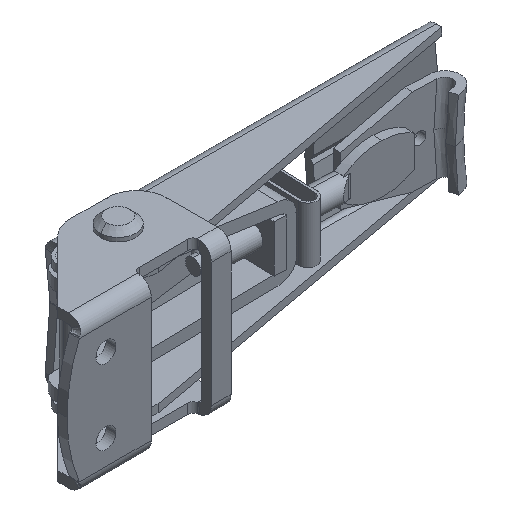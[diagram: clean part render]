
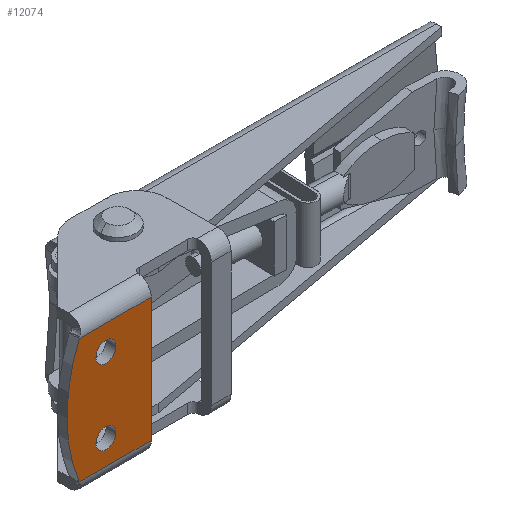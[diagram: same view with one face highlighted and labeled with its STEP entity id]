
A CAD part, isometric view. The second image highlights one B-rep face of the part: STEP entity #12074.
In plain terms, the highlighted planar face has unit normal (0, -1, 0).
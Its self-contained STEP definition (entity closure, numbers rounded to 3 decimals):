
#1479 = CARTESIAN_POINT ( 'NONE',  ( -34.35, 0., -9.5 ) ) ;
#1764 = DIRECTION ( 'NONE',  ( -1., 0., 0. ) ) ;
#1765 = DIRECTION ( 'NONE',  ( 0., 1., 0. ) ) ;
#1766 = CARTESIAN_POINT ( 'NONE',  ( -31.8, 0., 9.5 ) ) ;
#1767 = AXIS2_PLACEMENT_3D ( 'NONE', #1766, #1765, #1764 ) ;
#1768 = CIRCLE ( 'NONE', #1767, 2.55 ) ;
#1793 = CARTESIAN_POINT ( 'NONE',  ( -34.35, 0., 9.5 ) ) ;
#1798 = CARTESIAN_POINT ( 'NONE',  ( -29.25, 0., 9.5 ) ) ;
#1838 = DIRECTION ( 'NONE',  ( 1., 0., 0. ) ) ;
#1839 = DIRECTION ( 'NONE',  ( 0., 1., 0. ) ) ;
#1840 = CARTESIAN_POINT ( 'NONE',  ( -31.8, 0., -9.5 ) ) ;
#1841 = AXIS2_PLACEMENT_3D ( 'NONE', #1840, #1839, #1838 ) ;
#1842 = CIRCLE ( 'NONE', #1841, 2.55 ) ;
#1880 = CARTESIAN_POINT ( 'NONE',  ( -29.25, 0., -9.5 ) ) ;
#1885 = CARTESIAN_POINT ( 'NONE',  ( -38.585, 0., 15.775 ) ) ;
#1886 = DIRECTION ( 'NONE',  ( -1., 0., 0. ) ) ;
#1887 = DIRECTION ( 'NONE',  ( 0., -1., 0. ) ) ;
#1888 = AXIS2_PLACEMENT_3D ( 'NONE', #1895, #1887, #1886 ) ;
#1889 = CIRCLE ( 'NONE', #1888, 41.5 ) ;
#1895 = CARTESIAN_POINT ( 'NONE',  ( -0.2, 0., 0. ) ) ;
#1921 = CARTESIAN_POINT ( 'NONE',  ( -41.7, 0., 0. ) ) ;
#6169 = CARTESIAN_POINT ( 'NONE',  ( -38.585, 0., -15.775 ) ) ;
#6244 = CARTESIAN_POINT ( 'NONE',  ( -20.3, 0., -18.909 ) ) ;
#6245 = LINE ( 'NONE', #6244, #6298 ) ;
#6290 = CARTESIAN_POINT ( 'NONE',  ( -20.3, 0., -15.775 ) ) ;
#6291 = CARTESIAN_POINT ( 'NONE',  ( -20.3, 0., 15.775 ) ) ;
#6297 = DIRECTION ( 'NONE',  ( 0., 0., 1. ) ) ;
#6298 = VECTOR ( 'NONE', #6297, 1000. ) ;
#6348 = DIRECTION ( 'NONE',  ( -1., 0., 0. ) ) ;
#6349 = DIRECTION ( 'NONE',  ( 0., -1., 0. ) ) ;
#6350 = AXIS2_PLACEMENT_3D ( 'NONE', #6360, #6349, #6348 ) ;
#6359 = CIRCLE ( 'NONE', #6350, 41.5 ) ;
#6360 = CARTESIAN_POINT ( 'NONE',  ( -0.2, 0., 0. ) ) ;
#6537 = DIRECTION ( 'NONE',  ( 1., 0., 0. ) ) ;
#6538 = DIRECTION ( 'NONE',  ( 0., 1., 0. ) ) ;
#6539 = CARTESIAN_POINT ( 'NONE',  ( -31.8, 0., -9.5 ) ) ;
#6540 = AXIS2_PLACEMENT_3D ( 'NONE', #6539, #6538, #6537 ) ;
#6541 = CIRCLE ( 'NONE', #6540, 2.55 ) ;
#6649 = DIRECTION ( 'NONE',  ( -1., 0., 0. ) ) ;
#6650 = DIRECTION ( 'NONE',  ( 0., 1., 0. ) ) ;
#6651 = CARTESIAN_POINT ( 'NONE',  ( -31.8, 0., 9.5 ) ) ;
#6652 = AXIS2_PLACEMENT_3D ( 'NONE', #6651, #6650, #6649 ) ;
#6653 = CIRCLE ( 'NONE', #6652, 2.55 ) ;
#6655 = DIRECTION ( 'NONE',  ( 1., 0., 0. ) ) ;
#6656 = VECTOR ( 'NONE', #6655, 1000. ) ;
#6657 = CARTESIAN_POINT ( 'NONE',  ( -41.7, 0., -15.775 ) ) ;
#6658 = LINE ( 'NONE', #6657, #6656 ) ;
#6862 = DIRECTION ( 'NONE',  ( 1., 0., 0. ) ) ;
#6863 = DIRECTION ( 'NONE',  ( 0., 1., 0. ) ) ;
#6864 = CARTESIAN_POINT ( 'NONE',  ( -41.7, 0., 19.275 ) ) ;
#6865 = AXIS2_PLACEMENT_3D ( 'NONE', #6864, #6863, #6862 ) ;
#6866 = PLANE ( 'NONE',  #6865 ) ;
#6867 = FACE_OUTER_BOUND ( 'NONE', #11977, .T. ) ;
#6868 = FACE_BOUND ( 'NONE', #12096, .T. ) ;
#6869 = FACE_BOUND ( 'NONE', #12092, .T. ) ;
#6895 = DIRECTION ( 'NONE',  ( 1., 0., 0. ) ) ;
#6896 = VECTOR ( 'NONE', #6895, 1000. ) ;
#6897 = CARTESIAN_POINT ( 'NONE',  ( -41.7, 0., 15.775 ) ) ;
#6902 = LINE ( 'NONE', #6897, #6896 ) ;
#7820 = VERTEX_POINT ( 'NONE', #1479 ) ;
#7980 = EDGE_CURVE ( 'NONE', #7993, #7991, #1768, .T. ) ;
#7991 = VERTEX_POINT ( 'NONE', #1798 ) ;
#7993 = VERTEX_POINT ( 'NONE', #1793 ) ;
#8005 = EDGE_CURVE ( 'NONE', #7820, #8043, #1842, .T. ) ;
#8039 = EDGE_CURVE ( 'NONE', #8040, #8055, #1889, .T. ) ;
#8040 = VERTEX_POINT ( 'NONE', #1885 ) ;
#8043 = VERTEX_POINT ( 'NONE', #1880 ) ;
#8055 = VERTEX_POINT ( 'NONE', #1921 ) ;
#10669 = ORIENTED_EDGE ( 'NONE', *, *, #8039, .T. ) ;
#11682 = VERTEX_POINT ( 'NONE', #6169 ) ;
#11740 = EDGE_CURVE ( 'NONE', #11748, #11746, #6245, .T. ) ;
#11746 = VERTEX_POINT ( 'NONE', #6291 ) ;
#11748 = VERTEX_POINT ( 'NONE', #6290 ) ;
#11786 = EDGE_CURVE ( 'NONE', #8055, #11682, #6359, .T. ) ;
#11882 = EDGE_CURVE ( 'NONE', #8043, #7820, #6541, .T. ) ;
#11938 = EDGE_CURVE ( 'NONE', #11682, #11748, #6658, .T. ) ;
#11940 = EDGE_CURVE ( 'NONE', #7991, #7993, #6653, .T. ) ;
#11976 = ORIENTED_EDGE ( 'NONE', *, *, #8005, .T. ) ;
#11977 = EDGE_LOOP ( 'NONE', ( #11978, #12027, #12094, #10669, #12081 ) ) ;
#11978 = ORIENTED_EDGE ( 'NONE', *, *, #11938, .T. ) ;
#11995 = ORIENTED_EDGE ( 'NONE', *, *, #7980, .T. ) ;
#12026 = ORIENTED_EDGE ( 'NONE', *, *, #11882, .T. ) ;
#12027 = ORIENTED_EDGE ( 'NONE', *, *, #11740, .T. ) ;
#12074 = ADVANCED_FACE ( 'NONE', ( #6869, #6868, #6867 ), #6866, .F. ) ;
#12081 = ORIENTED_EDGE ( 'NONE', *, *, #11786, .T. ) ;
#12082 = ORIENTED_EDGE ( 'NONE', *, *, #11940, .T. ) ;
#12092 = EDGE_LOOP ( 'NONE', ( #12082, #11995 ) ) ;
#12094 = ORIENTED_EDGE ( 'NONE', *, *, #12095, .F. ) ;
#12095 = EDGE_CURVE ( 'NONE', #8040, #11746, #6902, .T. ) ;
#12096 = EDGE_LOOP ( 'NONE', ( #12026, #11976 ) ) ;
